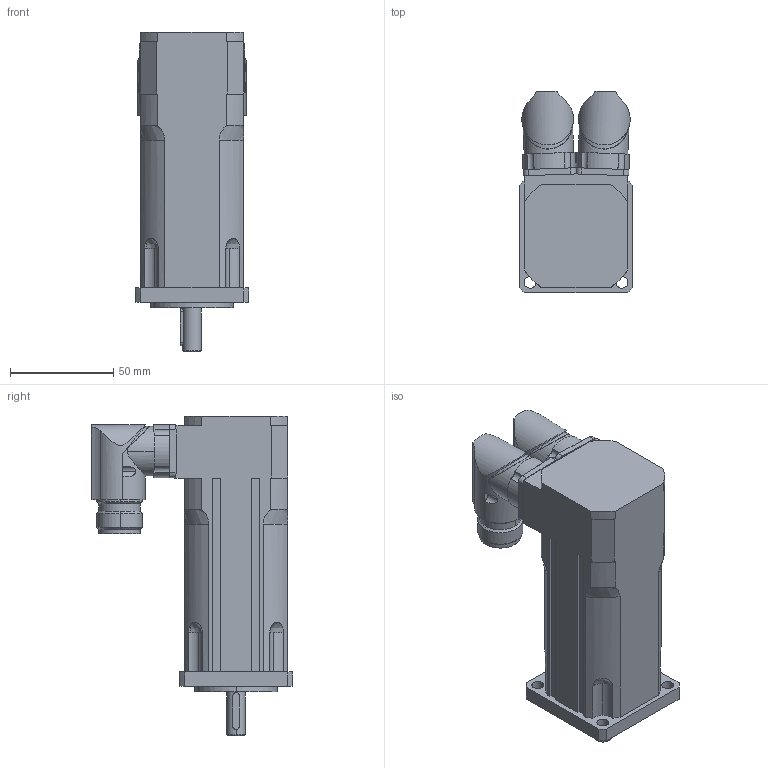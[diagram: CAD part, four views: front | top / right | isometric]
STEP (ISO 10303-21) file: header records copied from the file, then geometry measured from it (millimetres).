
FILE_DESCRIPTION(('STEP AP203'),'2;1');
FILE_NAME('MT2-0020_B.stp','2006-08-28T19:56:34',(''),(''),'2005.2.102','THINKDESIGN','');
FILE_SCHEMA(('CONFIG_CONTROL_DESIGN'));
Length unit declared in the file: millimetre
Bounding box: 55 x 97.7 x 155 mm (x, y, z)
Volume: 364796.2 mm3; surface area: 53101.4 mm2
Topology: 3 solids, 3 shells, 262 faces, 694 edges, 448 vertices
Faces by surface type: cylinder 116, plane 102, bspline 44
Entity records: 9879 total; most frequent: CARTESIAN_POINT 3284, ORIENTED_EDGE 1388, DIRECTION 1362, EDGE_CURVE 694, AXIS2_PLACEMENT_3D 520, VERTEX_POINT 448, VECTOR 322, LINE 322
